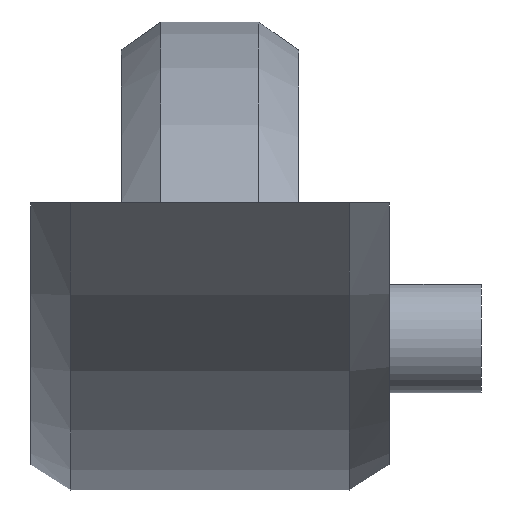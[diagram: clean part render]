
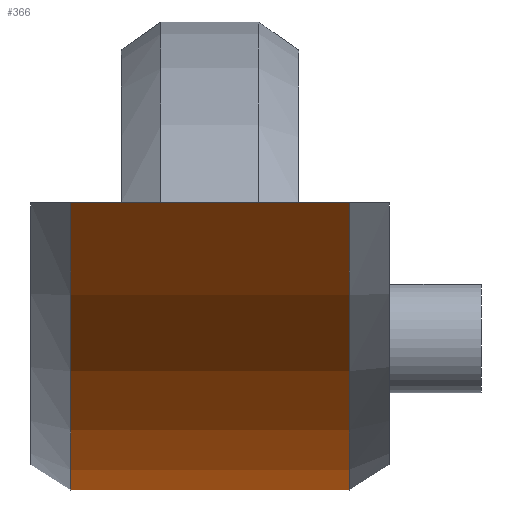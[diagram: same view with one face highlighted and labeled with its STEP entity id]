
A CAD part, front view. The second image highlights one B-rep face of the part: STEP entity #366.
In plain terms, the highlighted cylindrical face has radius 50 mm (diameter 100 mm), a partial arc.
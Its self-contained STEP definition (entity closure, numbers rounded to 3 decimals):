
#59=FACE_OUTER_BOUND('',#81,.T.);
#81=EDGE_LOOP('',(#290,#291,#292,#293));
#100=LINE('',#626,#125);
#106=LINE('',#646,#131);
#125=VECTOR('',#507,10.);
#131=VECTOR('',#513,10.);
#150=CIRCLE('',#455,50.);
#154=CIRCLE('',#462,50.);
#170=VERTEX_POINT('',#621);
#171=VERTEX_POINT('',#625);
#178=VERTEX_POINT('',#641);
#179=VERTEX_POINT('',#645);
#205=EDGE_CURVE('',#171,#170,#100,.T.);
#213=EDGE_CURVE('',#179,#178,#106,.T.);
#219=EDGE_CURVE('',#171,#178,#150,.T.);
#223=EDGE_CURVE('',#170,#179,#154,.T.);
#290=ORIENTED_EDGE('',*,*,#213,.T.);
#291=ORIENTED_EDGE('',*,*,#219,.F.);
#292=ORIENTED_EDGE('',*,*,#205,.T.);
#293=ORIENTED_EDGE('',*,*,#223,.T.);
#353=CYLINDRICAL_SURFACE('',#463,50.);
#366=ADVANCED_FACE('',(#59),#353,.T.);
#455=AXIS2_PLACEMENT_3D('',#658,#524,#525);
#462=AXIS2_PLACEMENT_3D('',#665,#538,#539);
#463=AXIS2_PLACEMENT_3D('',#666,#540,#541);
#507=DIRECTION('',(1.,0.,0.));
#513=DIRECTION('',(-1.,0.,0.));
#524=DIRECTION('center_axis',(-1.,0.,0.));
#525=DIRECTION('ref_axis',(0.,0.866,-0.5));
#538=DIRECTION('center_axis',(-1.,0.,0.));
#539=DIRECTION('ref_axis',(0.,0.866,-0.5));
#540=DIRECTION('center_axis',(-1.,0.,0.));
#541=DIRECTION('ref_axis',(0.,0.866,-0.5));
#621=CARTESIAN_POINT('',(7.7,36.661,0.));
#625=CARTESIAN_POINT('',(-7.7,36.661,0.));
#626=CARTESIAN_POINT('',(0.,36.661,0.));
#641=CARTESIAN_POINT('',(-7.7,-36.661,0.));
#645=CARTESIAN_POINT('',(7.7,-36.661,0.));
#646=CARTESIAN_POINT('',(0.,-36.661,0.));
#658=CARTESIAN_POINT('Origin',(-7.7,0.,34.));
#665=CARTESIAN_POINT('Origin',(7.7,0.,34.));
#666=CARTESIAN_POINT('Origin',(0.,0.,34.));
